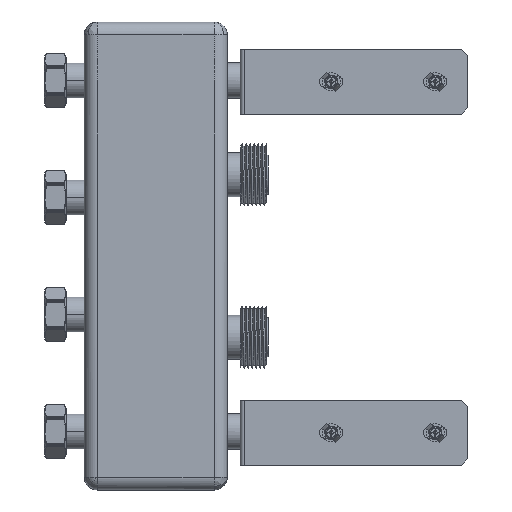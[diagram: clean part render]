
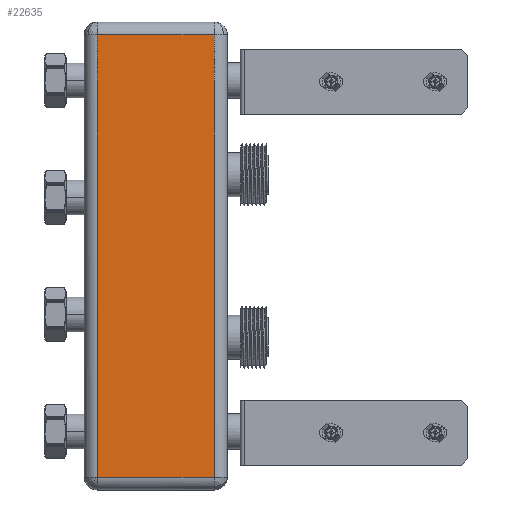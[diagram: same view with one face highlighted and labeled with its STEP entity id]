
A CAD part, left-side view. The second image highlights one B-rep face of the part: STEP entity #22635.
In plain terms, the highlighted planar face has unit normal (-1, 0, 0) as drawn and (1, 0, 0) by its records, which use the part's own axes.
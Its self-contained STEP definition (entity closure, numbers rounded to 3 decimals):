
#3161 = CARTESIAN_POINT ( 'NONE',  ( 55., 10., 10. ) ) ;
#3460 = DIRECTION ( 'NONE',  ( 1., 0., 0. ) ) ;
#6180 = CARTESIAN_POINT ( 'NONE',  ( 55., 100., 350. ) ) ;
#6487 = CARTESIAN_POINT ( 'NONE',  ( 55., 100., 10. ) ) ;
#7030 = ORIENTED_EDGE ( 'NONE', *, *, #35030, .T. ) ;
#10149 = VECTOR ( 'NONE', #56066, 1000. ) ;
#10355 = DIRECTION ( 'NONE',  ( 0., 0., -1. ) ) ;
#12660 = VECTOR ( 'NONE', #37660, 1000. ) ;
#12802 = LINE ( 'NONE', #18355, #10149 ) ;
#17431 = CARTESIAN_POINT ( 'NONE',  ( 55., 0., 0. ) ) ;
#17863 = VERTEX_POINT ( 'NONE', #26838 ) ;
#18355 = CARTESIAN_POINT ( 'NONE',  ( 55., 0., 350. ) ) ;
#19824 = VECTOR ( 'NONE', #10355, 1000. ) ;
#22635 = ADVANCED_FACE ( 'NONE', ( #58870 ), #35340, .T. ) ;
#25125 = VECTOR ( 'NONE', #57031, 1000. ) ;
#26838 = CARTESIAN_POINT ( 'NONE',  ( 55., 10., 350. ) ) ;
#27237 = AXIS2_PLACEMENT_3D ( 'NONE', #17431, #3460, #37166 ) ;
#28754 = EDGE_CURVE ( 'NONE', #34078, #41048, #32114, .T. ) ;
#29229 = LINE ( 'NONE', #38509, #19824 ) ;
#31343 = EDGE_CURVE ( 'NONE', #17863, #34078, #29229, .T. ) ;
#32114 = LINE ( 'NONE', #50980, #12660 ) ;
#33249 = EDGE_LOOP ( 'NONE', ( #56998, #59758, #7030, #54225 ) ) ;
#34078 = VERTEX_POINT ( 'NONE', #3161 ) ;
#35030 = EDGE_CURVE ( 'NONE', #59421, #17863, #12802, .T. ) ;
#35340 = PLANE ( 'NONE',  #27237 ) ;
#37166 = DIRECTION ( 'NONE',  ( 0., 0., -1. ) ) ;
#37660 = DIRECTION ( 'NONE',  ( 0., 1., 0. ) ) ;
#38509 = CARTESIAN_POINT ( 'NONE',  ( 55., 10., 0. ) ) ;
#39980 = EDGE_CURVE ( 'NONE', #41048, #59421, #48073, .T. ) ;
#41048 = VERTEX_POINT ( 'NONE', #6487 ) ;
#42199 = CARTESIAN_POINT ( 'NONE',  ( 55., 100., 0. ) ) ;
#48073 = LINE ( 'NONE', #42199, #25125 ) ;
#50980 = CARTESIAN_POINT ( 'NONE',  ( 55., 0., 10. ) ) ;
#54225 = ORIENTED_EDGE ( 'NONE', *, *, #31343, .T. ) ;
#56066 = DIRECTION ( 'NONE',  ( 0., -1., 0. ) ) ;
#56998 = ORIENTED_EDGE ( 'NONE', *, *, #28754, .T. ) ;
#57031 = DIRECTION ( 'NONE',  ( 0., 0., 1. ) ) ;
#58870 = FACE_OUTER_BOUND ( 'NONE', #33249, .T. ) ;
#59421 = VERTEX_POINT ( 'NONE', #6180 ) ;
#59758 = ORIENTED_EDGE ( 'NONE', *, *, #39980, .T. ) ;
